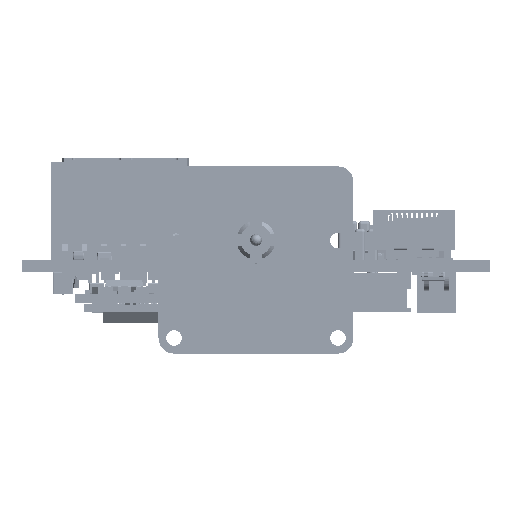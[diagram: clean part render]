
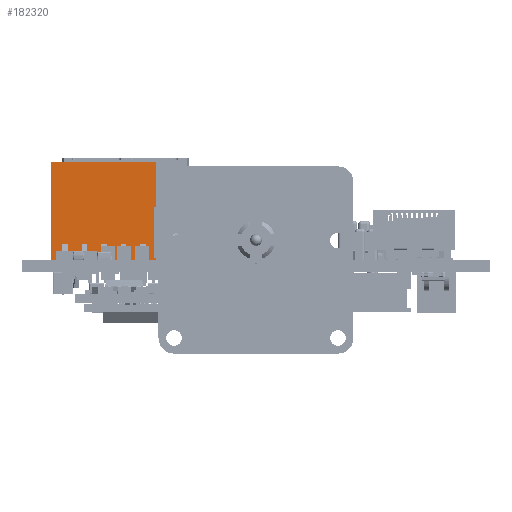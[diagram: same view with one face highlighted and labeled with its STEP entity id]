
A CAD part, left-side view. The second image highlights one B-rep face of the part: STEP entity #182320.
In plain terms, the highlighted planar face has unit normal (-1, 0, 0).
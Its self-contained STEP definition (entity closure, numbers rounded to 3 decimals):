
#177885 = VERTEX_POINT('',#177886);
#177886 = CARTESIAN_POINT('',(-6.5,0.,-6.73));
#177892 = EDGE_CURVE('',#177893,#177885,#177895,.T.);
#177893 = VERTEX_POINT('',#177894);
#177894 = CARTESIAN_POINT('',(-6.5,12.6,-6.73));
#177895 = LINE('',#177896,#177897);
#177896 = CARTESIAN_POINT('',(-6.5,12.6,-6.73));
#177897 = VECTOR('',#177898,1.);
#177898 = DIRECTION('',(0.,-1.,-0.));
#179254 = EDGE_CURVE('',#177893,#179255,#179257,.T.);
#179255 = VERTEX_POINT('',#179256);
#179256 = CARTESIAN_POINT('',(-6.5,12.6,6.73));
#179257 = LINE('',#179258,#179259);
#179258 = CARTESIAN_POINT('',(-6.5,12.6,6.73));
#179259 = VECTOR('',#179260,1.);
#179260 = DIRECTION('',(0.,-0.,1.));
#181639 = EDGE_CURVE('',#181640,#179255,#181642,.T.);
#181640 = VERTEX_POINT('',#181641);
#181641 = CARTESIAN_POINT('',(-6.5,0.,6.73));
#181642 = LINE('',#181643,#181644);
#181643 = CARTESIAN_POINT('',(-6.5,12.6,6.73));
#181644 = VECTOR('',#181645,1.);
#181645 = DIRECTION('',(0.,1.,0.));
#182309 = EDGE_CURVE('',#177885,#181640,#182310,.T.);
#182310 = LINE('',#182311,#182312);
#182311 = CARTESIAN_POINT('',(-6.5,0.,6.73));
#182312 = VECTOR('',#182313,1.);
#182313 = DIRECTION('',(0.,-0.,1.));
#182320 = ADVANCED_FACE('',(#182321,#182355,#182389,#182423,#182429,
    #182463),#182497,.F.);
#182321 = FACE_BOUND('',#182322,.T.);
#182322 = EDGE_LOOP('',(#182323,#182333,#182341,#182349));
#182323 = ORIENTED_EDGE('',*,*,#182324,.F.);
#182324 = EDGE_CURVE('',#182325,#182327,#182329,.T.);
#182325 = VERTEX_POINT('',#182326);
#182326 = CARTESIAN_POINT('',(-6.5,2.05,-5.35));
#182327 = VERTEX_POINT('',#182328);
#182328 = CARTESIAN_POINT('',(-6.5,1.75,-5.35));
#182329 = LINE('',#182330,#182331);
#182330 = CARTESIAN_POINT('',(-6.5,12.6,-5.35));
#182331 = VECTOR('',#182332,1.);
#182332 = DIRECTION('',(-0.,-1.,-0.));
#182333 = ORIENTED_EDGE('',*,*,#182334,.F.);
#182334 = EDGE_CURVE('',#182335,#182325,#182337,.T.);
#182335 = VERTEX_POINT('',#182336);
#182336 = CARTESIAN_POINT('',(-6.5,2.05,-4.65));
#182337 = LINE('',#182338,#182339);
#182338 = CARTESIAN_POINT('',(-6.5,2.05,-6.73));
#182339 = VECTOR('',#182340,1.);
#182340 = DIRECTION('',(0.,0.,-1.));
#182341 = ORIENTED_EDGE('',*,*,#182342,.T.);
#182342 = EDGE_CURVE('',#182335,#182343,#182345,.T.);
#182343 = VERTEX_POINT('',#182344);
#182344 = CARTESIAN_POINT('',(-6.5,1.75,-4.65));
#182345 = LINE('',#182346,#182347);
#182346 = CARTESIAN_POINT('',(-6.5,2.05,-4.65));
#182347 = VECTOR('',#182348,1.);
#182348 = DIRECTION('',(-0.,-1.,-0.));
#182349 = ORIENTED_EDGE('',*,*,#182350,.F.);
#182350 = EDGE_CURVE('',#182327,#182343,#182351,.T.);
#182351 = LINE('',#182352,#182353);
#182352 = CARTESIAN_POINT('',(-6.5,1.75,-6.73));
#182353 = VECTOR('',#182354,1.);
#182354 = DIRECTION('',(0.,-0.,1.));
#182355 = FACE_BOUND('',#182356,.T.);
#182356 = EDGE_LOOP('',(#182357,#182367,#182375,#182383));
#182357 = ORIENTED_EDGE('',*,*,#182358,.F.);
#182358 = EDGE_CURVE('',#182359,#182361,#182363,.T.);
#182359 = VERTEX_POINT('',#182360);
#182360 = CARTESIAN_POINT('',(-6.5,2.05,-0.35));
#182361 = VERTEX_POINT('',#182362);
#182362 = CARTESIAN_POINT('',(-6.5,1.75,-0.35));
#182363 = LINE('',#182364,#182365);
#182364 = CARTESIAN_POINT('',(-6.5,12.6,-0.35));
#182365 = VECTOR('',#182366,1.);
#182366 = DIRECTION('',(-0.,-1.,-0.));
#182367 = ORIENTED_EDGE('',*,*,#182368,.F.);
#182368 = EDGE_CURVE('',#182369,#182359,#182371,.T.);
#182369 = VERTEX_POINT('',#182370);
#182370 = CARTESIAN_POINT('',(-6.5,2.05,0.35));
#182371 = LINE('',#182372,#182373);
#182372 = CARTESIAN_POINT('',(-6.5,2.05,-6.73));
#182373 = VECTOR('',#182374,1.);
#182374 = DIRECTION('',(0.,0.,-1.));
#182375 = ORIENTED_EDGE('',*,*,#182376,.T.);
#182376 = EDGE_CURVE('',#182369,#182377,#182379,.T.);
#182377 = VERTEX_POINT('',#182378);
#182378 = CARTESIAN_POINT('',(-6.5,1.75,0.35));
#182379 = LINE('',#182380,#182381);
#182380 = CARTESIAN_POINT('',(-6.5,2.05,0.35));
#182381 = VECTOR('',#182382,1.);
#182382 = DIRECTION('',(-0.,-1.,-0.));
#182383 = ORIENTED_EDGE('',*,*,#182384,.F.);
#182384 = EDGE_CURVE('',#182361,#182377,#182385,.T.);
#182385 = LINE('',#182386,#182387);
#182386 = CARTESIAN_POINT('',(-6.5,1.75,-6.73));
#182387 = VECTOR('',#182388,1.);
#182388 = DIRECTION('',(0.,-0.,1.));
#182389 = FACE_BOUND('',#182390,.T.);
#182390 = EDGE_LOOP('',(#182391,#182401,#182409,#182417));
#182391 = ORIENTED_EDGE('',*,*,#182392,.F.);
#182392 = EDGE_CURVE('',#182393,#182395,#182397,.T.);
#182393 = VERTEX_POINT('',#182394);
#182394 = CARTESIAN_POINT('',(-6.5,2.05,4.65));
#182395 = VERTEX_POINT('',#182396);
#182396 = CARTESIAN_POINT('',(-6.5,1.75,4.65));
#182397 = LINE('',#182398,#182399);
#182398 = CARTESIAN_POINT('',(-6.5,12.6,4.65));
#182399 = VECTOR('',#182400,1.);
#182400 = DIRECTION('',(-0.,-1.,-0.));
#182401 = ORIENTED_EDGE('',*,*,#182402,.F.);
#182402 = EDGE_CURVE('',#182403,#182393,#182405,.T.);
#182403 = VERTEX_POINT('',#182404);
#182404 = CARTESIAN_POINT('',(-6.5,2.05,5.35));
#182405 = LINE('',#182406,#182407);
#182406 = CARTESIAN_POINT('',(-6.5,2.05,-6.73));
#182407 = VECTOR('',#182408,1.);
#182408 = DIRECTION('',(0.,0.,-1.));
#182409 = ORIENTED_EDGE('',*,*,#182410,.T.);
#182410 = EDGE_CURVE('',#182403,#182411,#182413,.T.);
#182411 = VERTEX_POINT('',#182412);
#182412 = CARTESIAN_POINT('',(-6.5,1.75,5.35));
#182413 = LINE('',#182414,#182415);
#182414 = CARTESIAN_POINT('',(-6.5,2.05,5.35));
#182415 = VECTOR('',#182416,1.);
#182416 = DIRECTION('',(-0.,-1.,-0.));
#182417 = ORIENTED_EDGE('',*,*,#182418,.F.);
#182418 = EDGE_CURVE('',#182395,#182411,#182419,.T.);
#182419 = LINE('',#182420,#182421);
#182420 = CARTESIAN_POINT('',(-6.5,1.75,-6.73));
#182421 = VECTOR('',#182422,1.);
#182422 = DIRECTION('',(0.,-0.,1.));
#182423 = FACE_BOUND('',#182424,.T.);
#182424 = EDGE_LOOP('',(#182425,#182426,#182427,#182428));
#182425 = ORIENTED_EDGE('',*,*,#181639,.T.);
#182426 = ORIENTED_EDGE('',*,*,#179254,.F.);
#182427 = ORIENTED_EDGE('',*,*,#177892,.T.);
#182428 = ORIENTED_EDGE('',*,*,#182309,.T.);
#182429 = FACE_BOUND('',#182430,.T.);
#182430 = EDGE_LOOP('',(#182431,#182441,#182449,#182457));
#182431 = ORIENTED_EDGE('',*,*,#182432,.F.);
#182432 = EDGE_CURVE('',#182433,#182435,#182437,.T.);
#182433 = VERTEX_POINT('',#182434);
#182434 = CARTESIAN_POINT('',(-6.5,2.05,2.15));
#182435 = VERTEX_POINT('',#182436);
#182436 = CARTESIAN_POINT('',(-6.5,1.75,2.15));
#182437 = LINE('',#182438,#182439);
#182438 = CARTESIAN_POINT('',(-6.5,12.6,2.15));
#182439 = VECTOR('',#182440,1.);
#182440 = DIRECTION('',(-0.,-1.,-0.));
#182441 = ORIENTED_EDGE('',*,*,#182442,.F.);
#182442 = EDGE_CURVE('',#182443,#182433,#182445,.T.);
#182443 = VERTEX_POINT('',#182444);
#182444 = CARTESIAN_POINT('',(-6.5,2.05,2.85));
#182445 = LINE('',#182446,#182447);
#182446 = CARTESIAN_POINT('',(-6.5,2.05,-6.73));
#182447 = VECTOR('',#182448,1.);
#182448 = DIRECTION('',(0.,0.,-1.));
#182449 = ORIENTED_EDGE('',*,*,#182450,.T.);
#182450 = EDGE_CURVE('',#182443,#182451,#182453,.T.);
#182451 = VERTEX_POINT('',#182452);
#182452 = CARTESIAN_POINT('',(-6.5,1.75,2.85));
#182453 = LINE('',#182454,#182455);
#182454 = CARTESIAN_POINT('',(-6.5,2.05,2.85));
#182455 = VECTOR('',#182456,1.);
#182456 = DIRECTION('',(-0.,-1.,-0.));
#182457 = ORIENTED_EDGE('',*,*,#182458,.F.);
#182458 = EDGE_CURVE('',#182435,#182451,#182459,.T.);
#182459 = LINE('',#182460,#182461);
#182460 = CARTESIAN_POINT('',(-6.5,1.75,-6.73));
#182461 = VECTOR('',#182462,1.);
#182462 = DIRECTION('',(0.,-0.,1.));
#182463 = FACE_BOUND('',#182464,.T.);
#182464 = EDGE_LOOP('',(#182465,#182475,#182483,#182491));
#182465 = ORIENTED_EDGE('',*,*,#182466,.F.);
#182466 = EDGE_CURVE('',#182467,#182469,#182471,.T.);
#182467 = VERTEX_POINT('',#182468);
#182468 = CARTESIAN_POINT('',(-6.5,2.05,-2.85));
#182469 = VERTEX_POINT('',#182470);
#182470 = CARTESIAN_POINT('',(-6.5,1.75,-2.85));
#182471 = LINE('',#182472,#182473);
#182472 = CARTESIAN_POINT('',(-6.5,12.6,-2.85));
#182473 = VECTOR('',#182474,1.);
#182474 = DIRECTION('',(-0.,-1.,-0.));
#182475 = ORIENTED_EDGE('',*,*,#182476,.F.);
#182476 = EDGE_CURVE('',#182477,#182467,#182479,.T.);
#182477 = VERTEX_POINT('',#182478);
#182478 = CARTESIAN_POINT('',(-6.5,2.05,-2.15));
#182479 = LINE('',#182480,#182481);
#182480 = CARTESIAN_POINT('',(-6.5,2.05,-6.73));
#182481 = VECTOR('',#182482,1.);
#182482 = DIRECTION('',(0.,0.,-1.));
#182483 = ORIENTED_EDGE('',*,*,#182484,.T.);
#182484 = EDGE_CURVE('',#182477,#182485,#182487,.T.);
#182485 = VERTEX_POINT('',#182486);
#182486 = CARTESIAN_POINT('',(-6.5,1.75,-2.15));
#182487 = LINE('',#182488,#182489);
#182488 = CARTESIAN_POINT('',(-6.5,2.05,-2.15));
#182489 = VECTOR('',#182490,1.);
#182490 = DIRECTION('',(-0.,-1.,-0.));
#182491 = ORIENTED_EDGE('',*,*,#182492,.F.);
#182492 = EDGE_CURVE('',#182469,#182485,#182493,.T.);
#182493 = LINE('',#182494,#182495);
#182494 = CARTESIAN_POINT('',(-6.5,1.75,-6.73));
#182495 = VECTOR('',#182496,1.);
#182496 = DIRECTION('',(0.,-0.,1.));
#182497 = PLANE('',#182498);
#182498 = AXIS2_PLACEMENT_3D('',#182499,#182500,#182501);
#182499 = CARTESIAN_POINT('',(-6.5,12.6,-6.73));
#182500 = DIRECTION('',(1.,0.,0.));
#182501 = DIRECTION('',(0.,0.,-1.));
